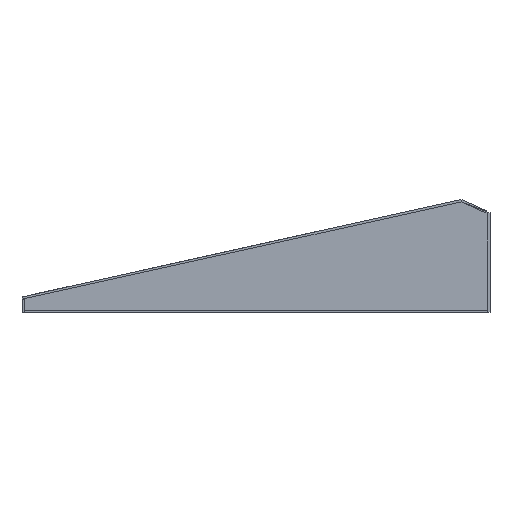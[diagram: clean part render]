
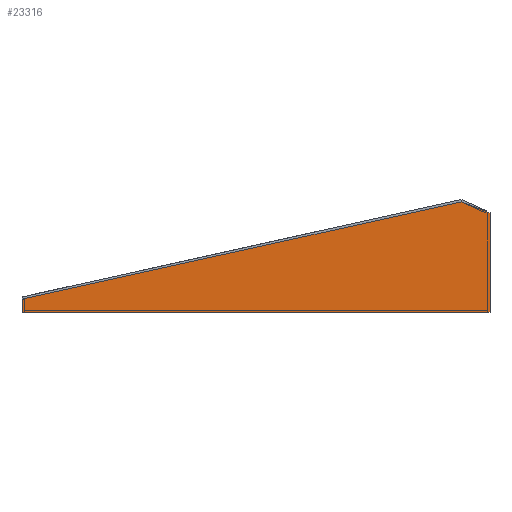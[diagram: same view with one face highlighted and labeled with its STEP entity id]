
A CAD part, front view. The second image highlights one B-rep face of the part: STEP entity #23316.
In plain terms, the highlighted planar face has unit normal (0, -1, 0).
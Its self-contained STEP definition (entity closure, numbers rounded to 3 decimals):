
#22931 = VERTEX_POINT('',#22932);
#22932 = CARTESIAN_POINT('',(0.,0.,0.));
#22941 = PLANE('',#22942);
#22942 = AXIS2_PLACEMENT_3D('',#22943,#22944,#22945);
#22943 = CARTESIAN_POINT('',(0.,0.,0.));
#22944 = DIRECTION('',(0.,0.,-1.));
#22945 = DIRECTION('',(1.,0.,0.));
#22953 = PLANE('',#22954);
#22954 = AXIS2_PLACEMENT_3D('',#22955,#22956,#22957);
#22955 = CARTESIAN_POINT('',(0.,0.,12.));
#22956 = DIRECTION('',(-1.,-0.,-0.));
#22957 = DIRECTION('',(0.,0.,-1.));
#22994 = VERTEX_POINT('',#22995);
#22995 = CARTESIAN_POINT('',(423.,0.,0.));
#23009 = PLANE('',#23010);
#23010 = AXIS2_PLACEMENT_3D('',#23011,#23012,#23013);
#23011 = CARTESIAN_POINT('',(423.,0.,0.));
#23012 = DIRECTION('',(1.,0.,-0.));
#23013 = DIRECTION('',(0.,0.,1.));
#23021 = EDGE_CURVE('',#22931,#22994,#23022,.T.);
#23022 = SURFACE_CURVE('',#23023,(#23027,#23034),.PCURVE_S1.);
#23023 = LINE('',#23024,#23025);
#23024 = CARTESIAN_POINT('',(0.,0.,0.));
#23025 = VECTOR('',#23026,1.);
#23026 = DIRECTION('',(1.,0.,0.));
#23027 = PCURVE('',#22941,#23028);
#23028 = DEFINITIONAL_REPRESENTATION('',(#23029),#23033);
#23029 = LINE('',#23030,#23031);
#23030 = CARTESIAN_POINT('',(0.,0.));
#23031 = VECTOR('',#23032,1.);
#23032 = DIRECTION('',(1.,0.));
#23033 = ( GEOMETRIC_REPRESENTATION_CONTEXT(2) 
PARAMETRIC_REPRESENTATION_CONTEXT() REPRESENTATION_CONTEXT('2D SPACE',''
  ) );
#23034 = PCURVE('',#23035,#23040);
#23035 = PLANE('',#23036);
#23036 = AXIS2_PLACEMENT_3D('',#23037,#23038,#23039);
#23037 = CARTESIAN_POINT('',(228.947,0.,30.787));
#23038 = DIRECTION('',(-0.,-1.,-0.));
#23039 = DIRECTION('',(0.,0.,-1.));
#23040 = DEFINITIONAL_REPRESENTATION('',(#23041),#23045);
#23041 = LINE('',#23042,#23043);
#23042 = CARTESIAN_POINT('',(30.787,-228.947));
#23043 = VECTOR('',#23044,1.);
#23044 = DIRECTION('',(0.,1.));
#23045 = ( GEOMETRIC_REPRESENTATION_CONTEXT(2) 
PARAMETRIC_REPRESENTATION_CONTEXT() REPRESENTATION_CONTEXT('2D SPACE',''
  ) );
#23075 = VERTEX_POINT('',#23076);
#23076 = CARTESIAN_POINT('',(423.,0.,90.));
#23090 = PLANE('',#23091);
#23091 = AXIS2_PLACEMENT_3D('',#23092,#23093,#23094);
#23092 = CARTESIAN_POINT('',(423.,0.,90.));
#23093 = DIRECTION('',(0.359,0.,0.933));
#23094 = DIRECTION('',(-0.933,0.,0.359));
#23102 = EDGE_CURVE('',#22994,#23075,#23103,.T.);
#23103 = SURFACE_CURVE('',#23104,(#23108,#23115),.PCURVE_S1.);
#23104 = LINE('',#23105,#23106);
#23105 = CARTESIAN_POINT('',(423.,0.,0.));
#23106 = VECTOR('',#23107,1.);
#23107 = DIRECTION('',(0.,0.,1.));
#23108 = PCURVE('',#23009,#23109);
#23109 = DEFINITIONAL_REPRESENTATION('',(#23110),#23114);
#23110 = LINE('',#23111,#23112);
#23111 = CARTESIAN_POINT('',(0.,0.));
#23112 = VECTOR('',#23113,1.);
#23113 = DIRECTION('',(1.,0.));
#23114 = ( GEOMETRIC_REPRESENTATION_CONTEXT(2) 
PARAMETRIC_REPRESENTATION_CONTEXT() REPRESENTATION_CONTEXT('2D SPACE',''
  ) );
#23115 = PCURVE('',#23035,#23116);
#23116 = DEFINITIONAL_REPRESENTATION('',(#23117),#23121);
#23117 = LINE('',#23118,#23119);
#23118 = CARTESIAN_POINT('',(30.787,194.053));
#23119 = VECTOR('',#23120,1.);
#23120 = DIRECTION('',(-1.,0.));
#23121 = ( GEOMETRIC_REPRESENTATION_CONTEXT(2) 
PARAMETRIC_REPRESENTATION_CONTEXT() REPRESENTATION_CONTEXT('2D SPACE',''
  ) );
#23151 = VERTEX_POINT('',#23152);
#23152 = CARTESIAN_POINT('',(397.,0.,100.));
#23166 = PLANE('',#23167);
#23167 = AXIS2_PLACEMENT_3D('',#23168,#23169,#23170);
#23168 = CARTESIAN_POINT('',(397.,0.,100.));
#23169 = DIRECTION('',(-0.216,0.,0.976));
#23170 = DIRECTION('',(-0.976,0.,-0.216));
#23178 = EDGE_CURVE('',#23075,#23151,#23179,.T.);
#23179 = SURFACE_CURVE('',#23180,(#23184,#23191),.PCURVE_S1.);
#23180 = LINE('',#23181,#23182);
#23181 = CARTESIAN_POINT('',(423.,0.,90.));
#23182 = VECTOR('',#23183,1.);
#23183 = DIRECTION('',(-0.933,0.,0.359));
#23184 = PCURVE('',#23090,#23185);
#23185 = DEFINITIONAL_REPRESENTATION('',(#23186),#23190);
#23186 = LINE('',#23187,#23188);
#23187 = CARTESIAN_POINT('',(0.,0.));
#23188 = VECTOR('',#23189,1.);
#23189 = DIRECTION('',(1.,0.));
#23190 = ( GEOMETRIC_REPRESENTATION_CONTEXT(2) 
PARAMETRIC_REPRESENTATION_CONTEXT() REPRESENTATION_CONTEXT('2D SPACE',''
  ) );
#23191 = PCURVE('',#23035,#23192);
#23192 = DEFINITIONAL_REPRESENTATION('',(#23193),#23197);
#23193 = LINE('',#23194,#23195);
#23194 = CARTESIAN_POINT('',(-59.213,194.053));
#23195 = VECTOR('',#23196,1.);
#23196 = DIRECTION('',(-0.359,-0.933));
#23197 = ( GEOMETRIC_REPRESENTATION_CONTEXT(2) 
PARAMETRIC_REPRESENTATION_CONTEXT() REPRESENTATION_CONTEXT('2D SPACE',''
  ) );
#23227 = VERTEX_POINT('',#23228);
#23228 = CARTESIAN_POINT('',(0.,0.,12.));
#23249 = EDGE_CURVE('',#23151,#23227,#23250,.T.);
#23250 = SURFACE_CURVE('',#23251,(#23255,#23262),.PCURVE_S1.);
#23251 = LINE('',#23252,#23253);
#23252 = CARTESIAN_POINT('',(397.,0.,100.));
#23253 = VECTOR('',#23254,1.);
#23254 = DIRECTION('',(-0.976,0.,-0.216));
#23255 = PCURVE('',#23166,#23256);
#23256 = DEFINITIONAL_REPRESENTATION('',(#23257),#23261);
#23257 = LINE('',#23258,#23259);
#23258 = CARTESIAN_POINT('',(0.,0.));
#23259 = VECTOR('',#23260,1.);
#23260 = DIRECTION('',(1.,0.));
#23261 = ( GEOMETRIC_REPRESENTATION_CONTEXT(2) 
PARAMETRIC_REPRESENTATION_CONTEXT() REPRESENTATION_CONTEXT('2D SPACE',''
  ) );
#23262 = PCURVE('',#23035,#23263);
#23263 = DEFINITIONAL_REPRESENTATION('',(#23264),#23268);
#23264 = LINE('',#23265,#23266);
#23265 = CARTESIAN_POINT('',(-69.213,168.053));
#23266 = VECTOR('',#23267,1.);
#23267 = DIRECTION('',(0.216,-0.976));
#23268 = ( GEOMETRIC_REPRESENTATION_CONTEXT(2) 
PARAMETRIC_REPRESENTATION_CONTEXT() REPRESENTATION_CONTEXT('2D SPACE',''
  ) );
#23296 = EDGE_CURVE('',#23227,#22931,#23297,.T.);
#23297 = SURFACE_CURVE('',#23298,(#23302,#23309),.PCURVE_S1.);
#23298 = LINE('',#23299,#23300);
#23299 = CARTESIAN_POINT('',(0.,0.,12.));
#23300 = VECTOR('',#23301,1.);
#23301 = DIRECTION('',(0.,0.,-1.));
#23302 = PCURVE('',#22953,#23303);
#23303 = DEFINITIONAL_REPRESENTATION('',(#23304),#23308);
#23304 = LINE('',#23305,#23306);
#23305 = CARTESIAN_POINT('',(0.,0.));
#23306 = VECTOR('',#23307,1.);
#23307 = DIRECTION('',(1.,0.));
#23308 = ( GEOMETRIC_REPRESENTATION_CONTEXT(2) 
PARAMETRIC_REPRESENTATION_CONTEXT() REPRESENTATION_CONTEXT('2D SPACE',''
  ) );
#23309 = PCURVE('',#23035,#23310);
#23310 = DEFINITIONAL_REPRESENTATION('',(#23311),#23315);
#23311 = LINE('',#23312,#23313);
#23312 = CARTESIAN_POINT('',(18.787,-228.947));
#23313 = VECTOR('',#23314,1.);
#23314 = DIRECTION('',(1.,0.));
#23315 = ( GEOMETRIC_REPRESENTATION_CONTEXT(2) 
PARAMETRIC_REPRESENTATION_CONTEXT() REPRESENTATION_CONTEXT('2D SPACE',''
  ) );
#23316 = ADVANCED_FACE('',(#23317),#23035,.T.);
#23317 = FACE_BOUND('',#23318,.T.);
#23318 = EDGE_LOOP('',(#23319,#23320,#23321,#23322,#23323));
#23319 = ORIENTED_EDGE('',*,*,#23021,.T.);
#23320 = ORIENTED_EDGE('',*,*,#23102,.T.);
#23321 = ORIENTED_EDGE('',*,*,#23178,.T.);
#23322 = ORIENTED_EDGE('',*,*,#23249,.T.);
#23323 = ORIENTED_EDGE('',*,*,#23296,.T.);
